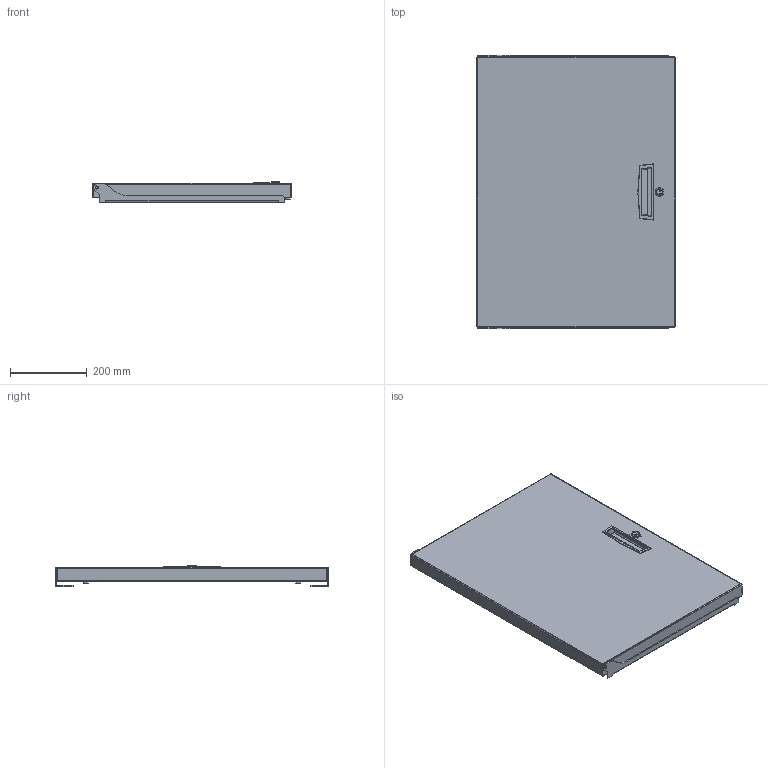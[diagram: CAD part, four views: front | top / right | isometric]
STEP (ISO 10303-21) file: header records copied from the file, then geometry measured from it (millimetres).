
FILE_DESCRIPTION((''),'2;1');
FILE_NAME('ADO-5-14_ASM','2023-12-28T',('mrodri2d'),('Middle Atlantic Products'),'CREO PARAMETRIC BY PTC INC, 2018360','CREO PARAMETRIC BY PTC INC, 2018360','');
FILE_SCHEMA(('CONFIG_CONTROL_DESIGN'));
Length unit declared in the file: inch
Products named in the file (13): P514D; 500-00769; 500-00069; SC-1_125; LOCKCLIP; 80-050; B5DB_1; 85-009-1; P5DB1_ASM; B5DB_2; P5DB2_ASM; 91-036; ADO-5-14_ASM
Assembly tree (14 placements, depth 3):
  ADO-5-14_ASM
    P514D
    500-00769
    500-00069
    SC-1_125
    LOCKCLIP
    80-050  x2
    P5DB1_ASM
      B5DB_1
      85-009-1
    P5DB2_ASM
      B5DB_2
      85-009-1
    91-036
Bounding box: 517.52 x 713.59 x 55.73 mm (x, y, z)
Volume: 911215.2 mm3; surface area: 1097972 mm2
Topology: 11 solids, 22 shells, 692 faces, 1753 edges, 1088 vertices
Faces by surface type: plane 321, cylinder 254, bspline 45, torus 38, sphere 19, cone 15
Entity records: 25502 total; most frequent: CARTESIAN_POINT 9585, ORIENTED_EDGE 3295, DIRECTION 3126, EDGE_CURVE 1677, AXIS2_PLACEMENT_3D 1080, VERTEX_POINT 1053, VECTOR 966, LINE 966
